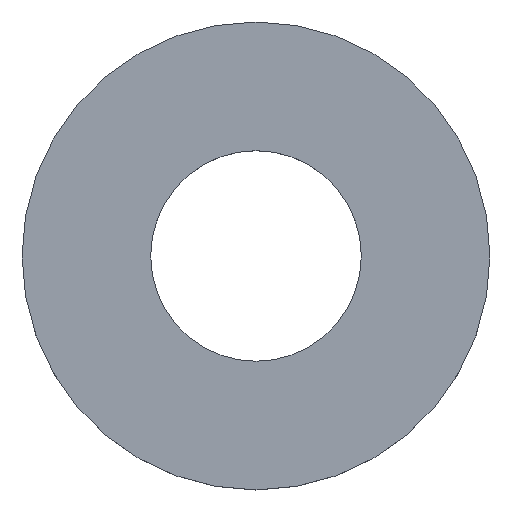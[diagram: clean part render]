
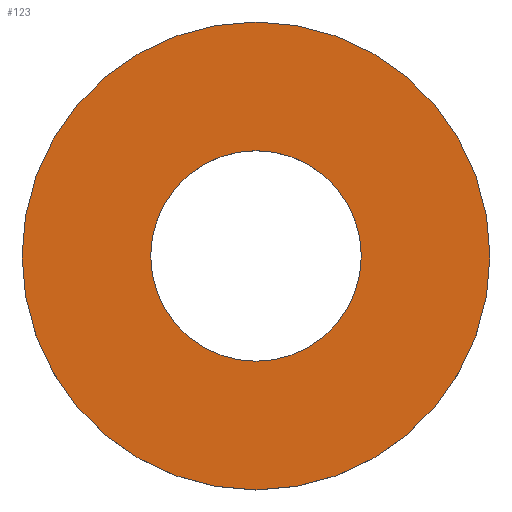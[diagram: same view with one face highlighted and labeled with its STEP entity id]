
A CAD part, top view. The second image highlights one B-rep face of the part: STEP entity #123.
In plain terms, the highlighted planar face has unit normal (0, 0, 1).
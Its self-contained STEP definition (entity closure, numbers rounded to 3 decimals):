
#39 = EDGE_CURVE('',#40,#40,#42,.T.);
#40 = VERTEX_POINT('',#41);
#41 = CARTESIAN_POINT('',(3.,0.,0.25));
#42 = SURFACE_CURVE('',#43,(#48,#60),.PCURVE_S1.);
#43 = CIRCLE('',#44,3.);
#44 = AXIS2_PLACEMENT_3D('',#45,#46,#47);
#45 = CARTESIAN_POINT('',(0.,0.,0.25));
#46 = DIRECTION('',(0.,0.,1.));
#47 = DIRECTION('',(1.,0.,-0.));
#48 = PCURVE('',#49,#54);
#49 = CYLINDRICAL_SURFACE('',#50,3.);
#50 = AXIS2_PLACEMENT_3D('',#51,#52,#53);
#51 = CARTESIAN_POINT('',(0.,0.,-0.25));
#52 = DIRECTION('',(0.,0.,1.));
#53 = DIRECTION('',(1.,0.,-0.));
#54 = DEFINITIONAL_REPRESENTATION('',(#55),#59);
#55 = LINE('',#56,#57);
#56 = CARTESIAN_POINT('',(0.,0.5));
#57 = VECTOR('',#58,1.);
#58 = DIRECTION('',(1.,0.));
#59 = ( GEOMETRIC_REPRESENTATION_CONTEXT(2) 
PARAMETRIC_REPRESENTATION_CONTEXT() REPRESENTATION_CONTEXT('2D SPACE',''
  ) );
#60 = PCURVE('',#61,#66);
#61 = PLANE('',#62);
#62 = AXIS2_PLACEMENT_3D('',#63,#64,#65);
#63 = CARTESIAN_POINT('',(0.,0.,0.25));
#64 = DIRECTION('',(0.,0.,1.));
#65 = DIRECTION('',(1.,0.,-0.));
#66 = DEFINITIONAL_REPRESENTATION('',(#67),#71);
#67 = CIRCLE('',#68,3.);
#68 = AXIS2_PLACEMENT_2D('',#69,#70);
#69 = CARTESIAN_POINT('',(0.,0.));
#70 = DIRECTION('',(1.,0.));
#71 = ( GEOMETRIC_REPRESENTATION_CONTEXT(2) 
PARAMETRIC_REPRESENTATION_CONTEXT() REPRESENTATION_CONTEXT('2D SPACE',''
  ) );
#123 = ADVANCED_FACE('',(#124,#127),#61,.T.);
#124 = FACE_BOUND('',#125,.T.);
#125 = EDGE_LOOP('',(#126));
#126 = ORIENTED_EDGE('',*,*,#39,.T.);
#127 = FACE_BOUND('',#128,.T.);
#128 = EDGE_LOOP('',(#129));
#129 = ORIENTED_EDGE('',*,*,#130,.F.);
#130 = EDGE_CURVE('',#131,#131,#133,.T.);
#131 = VERTEX_POINT('',#132);
#132 = CARTESIAN_POINT('',(1.35,0.,0.25));
#133 = SURFACE_CURVE('',#134,(#139,#146),.PCURVE_S1.);
#134 = CIRCLE('',#135,1.35);
#135 = AXIS2_PLACEMENT_3D('',#136,#137,#138);
#136 = CARTESIAN_POINT('',(0.,0.,0.25));
#137 = DIRECTION('',(0.,0.,1.));
#138 = DIRECTION('',(1.,0.,-0.));
#139 = PCURVE('',#61,#140);
#140 = DEFINITIONAL_REPRESENTATION('',(#141),#145);
#141 = CIRCLE('',#142,1.35);
#142 = AXIS2_PLACEMENT_2D('',#143,#144);
#143 = CARTESIAN_POINT('',(0.,0.));
#144 = DIRECTION('',(1.,0.));
#145 = ( GEOMETRIC_REPRESENTATION_CONTEXT(2) 
PARAMETRIC_REPRESENTATION_CONTEXT() REPRESENTATION_CONTEXT('2D SPACE',''
  ) );
#146 = PCURVE('',#147,#152);
#147 = CYLINDRICAL_SURFACE('',#148,1.35);
#148 = AXIS2_PLACEMENT_3D('',#149,#150,#151);
#149 = CARTESIAN_POINT('',(0.,0.,-0.35));
#150 = DIRECTION('',(0.,0.,1.));
#151 = DIRECTION('',(1.,0.,-0.));
#152 = DEFINITIONAL_REPRESENTATION('',(#153),#157);
#153 = LINE('',#154,#155);
#154 = CARTESIAN_POINT('',(0.,0.6));
#155 = VECTOR('',#156,1.);
#156 = DIRECTION('',(1.,0.));
#157 = ( GEOMETRIC_REPRESENTATION_CONTEXT(2) 
PARAMETRIC_REPRESENTATION_CONTEXT() REPRESENTATION_CONTEXT('2D SPACE',''
  ) );
